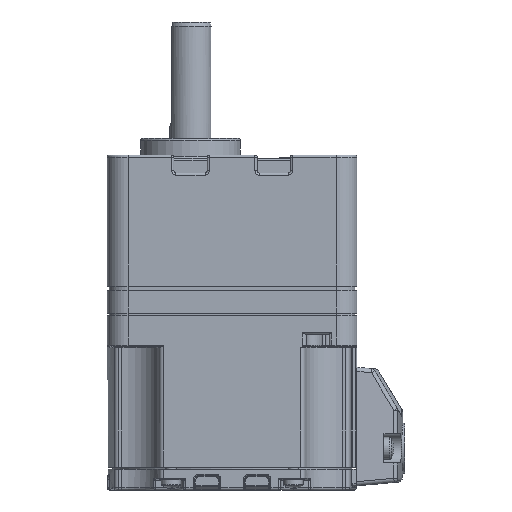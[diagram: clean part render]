
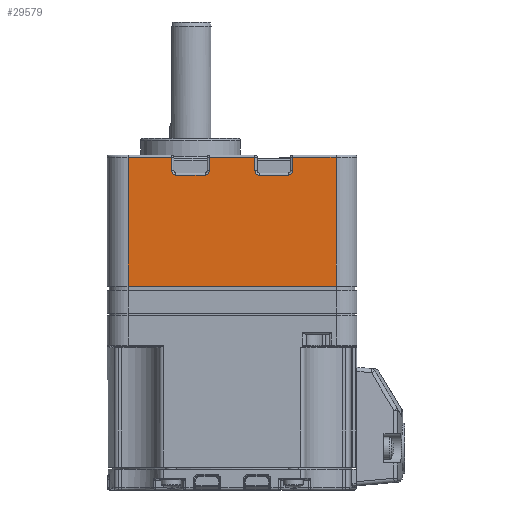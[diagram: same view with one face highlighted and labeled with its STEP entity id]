
A CAD part, left-side view. The second image highlights one B-rep face of the part: STEP entity #29579.
In plain terms, the highlighted planar face has unit normal (-1, 0, 0).
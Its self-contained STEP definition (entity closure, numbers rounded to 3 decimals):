
#25733=CARTESIAN_POINT('',(-60.,55.0,16.928));
#25734=VERTEX_POINT('',#25733);
#25784=CARTESIAN_POINT('',(-60.,5.,16.928));
#25785=VERTEX_POINT('',#25784);
#25793=CARTESIAN_POINT('',(-60.,55.0,16.928));
#25794=DIRECTION('',(0.0,-1.0,0.0));
#25795=VECTOR('',#25794,50.);
#25796=LINE('',#25793,#25795);
#25797=EDGE_CURVE('',#25734,#25785,#25796,.T.);
#25849=CARTESIAN_POINT('',(-60.,5.,47.928));
#25850=VERTEX_POINT('',#25849);
#25860=CARTESIAN_POINT('',(-60.,5.,47.928));
#25861=DIRECTION('',(0.0,0.0,-1.0));
#25862=VECTOR('',#25861,31.0);
#25863=LINE('',#25860,#25862);
#25864=EDGE_CURVE('',#25850,#25785,#25863,.T.);
#25883=CARTESIAN_POINT('',(-60.,55.0,47.928));
#25884=VERTEX_POINT('',#25883);
#25899=CARTESIAN_POINT('',(-60.,55.0,16.928));
#25900=DIRECTION('',(0.0,0.0,1.0));
#25901=VECTOR('',#25900,31.0);
#25902=LINE('',#25899,#25901);
#25903=EDGE_CURVE('',#25734,#25884,#25902,.T.);
#27203=CARTESIAN_POINT('',(-60.,44.5,47.928));
#27204=VERTEX_POINT('',#27203);
#27214=CARTESIAN_POINT('',(-60.,44.5,44.628));
#27215=VERTEX_POINT('',#27214);
#27216=CARTESIAN_POINT('',(-60.,44.5,47.928));
#27217=DIRECTION('',(0.0,0.0,-1.0));
#27218=VECTOR('',#27217,3.3);
#27219=LINE('',#27216,#27218);
#27220=EDGE_CURVE('',#27204,#27215,#27219,.T.);
#27244=CARTESIAN_POINT('',(-60.,43.5,43.628));
#27245=VERTEX_POINT('',#27244);
#27246=CARTESIAN_POINT('',(-60.,43.5,44.628));
#27247=DIRECTION('',(-1.0,0.,0.));
#27248=DIRECTION('',(0.,0.707,-0.707));
#27249=AXIS2_PLACEMENT_3D('',#27246,#27247,#27248);
#27250=CIRCLE('',#27249,1.0);
#27251=EDGE_CURVE('',#27215,#27245,#27250,.T.);
#27270=CARTESIAN_POINT('',(-60.,36.5,43.628));
#27271=VERTEX_POINT('',#27270);
#27272=CARTESIAN_POINT('',(-60.,43.5,43.628));
#27273=DIRECTION('',(0.0,-1.0,0.0));
#27274=VECTOR('',#27273,7.);
#27275=LINE('',#27272,#27274);
#27276=EDGE_CURVE('',#27245,#27271,#27275,.T.);
#27295=CARTESIAN_POINT('',(-60.,35.5,44.628));
#27296=VERTEX_POINT('',#27295);
#27297=CARTESIAN_POINT('',(-60.,36.5,44.628));
#27298=DIRECTION('',(-1.,0.,0.));
#27299=DIRECTION('',(0.,-0.707,-0.707));
#27300=AXIS2_PLACEMENT_3D('',#27297,#27298,#27299);
#27301=CIRCLE('',#27300,1.);
#27302=EDGE_CURVE('',#27271,#27296,#27301,.T.);
#27320=CARTESIAN_POINT('',(-60.,35.5,47.928));
#27321=VERTEX_POINT('',#27320);
#27331=CARTESIAN_POINT('',(-60.,35.5,44.628));
#27332=DIRECTION('',(0.0,0.0,1.0));
#27333=VECTOR('',#27332,3.3);
#27334=LINE('',#27331,#27333);
#27335=EDGE_CURVE('',#27296,#27321,#27334,.T.);
#28618=CARTESIAN_POINT('',(-60.,24.5,47.928));
#28619=VERTEX_POINT('',#28618);
#28629=CARTESIAN_POINT('',(-60.,24.5,44.628));
#28630=VERTEX_POINT('',#28629);
#28631=CARTESIAN_POINT('',(-60.,24.5,47.928));
#28632=DIRECTION('',(0.0,0.0,-1.0));
#28633=VECTOR('',#28632,3.3);
#28634=LINE('',#28631,#28633);
#28635=EDGE_CURVE('',#28619,#28630,#28634,.T.);
#28659=CARTESIAN_POINT('',(-60.,23.5,43.628));
#28660=VERTEX_POINT('',#28659);
#28661=CARTESIAN_POINT('',(-60.,23.5,44.628));
#28662=DIRECTION('',(-1.,0.,0.));
#28663=DIRECTION('',(0.,0.707,-0.707));
#28664=AXIS2_PLACEMENT_3D('',#28661,#28662,#28663);
#28665=CIRCLE('',#28664,1.);
#28666=EDGE_CURVE('',#28630,#28660,#28665,.T.);
#28685=CARTESIAN_POINT('',(-60.,16.5,43.628));
#28686=VERTEX_POINT('',#28685);
#28687=CARTESIAN_POINT('',(-60.,23.5,43.628));
#28688=DIRECTION('',(0.0,-1.0,0.0));
#28689=VECTOR('',#28688,7.);
#28690=LINE('',#28687,#28689);
#28691=EDGE_CURVE('',#28660,#28686,#28690,.T.);
#28710=CARTESIAN_POINT('',(-60.,15.5,44.628));
#28711=VERTEX_POINT('',#28710);
#28712=CARTESIAN_POINT('',(-60.,16.5,44.628));
#28713=DIRECTION('',(-1.0,0.,0.));
#28714=DIRECTION('',(0.,-0.707,-0.707));
#28715=AXIS2_PLACEMENT_3D('',#28712,#28713,#28714);
#28716=CIRCLE('',#28715,1.0);
#28717=EDGE_CURVE('',#28686,#28711,#28716,.T.);
#29109=CARTESIAN_POINT('',(-60.,55.0,47.928));
#29110=DIRECTION('',(0.0,-1.0,0.0));
#29111=VECTOR('',#29110,10.5);
#29112=LINE('',#29109,#29111);
#29113=EDGE_CURVE('',#25884,#27204,#29112,.T.);
#29419=CARTESIAN_POINT('',(-60.,35.5,47.928));
#29420=DIRECTION('',(0.0,-1.0,0.0));
#29421=VECTOR('',#29420,11.0);
#29422=LINE('',#29419,#29421);
#29423=EDGE_CURVE('',#27321,#28619,#29422,.T.);
#29531=CARTESIAN_POINT('',(-60.,15.5,47.928));
#29532=VERTEX_POINT('',#29531);
#29542=CARTESIAN_POINT('',(-60.,15.5,44.628));
#29543=DIRECTION('',(0.0,0.0,1.0));
#29544=VECTOR('',#29543,3.3);
#29545=LINE('',#29542,#29544);
#29546=EDGE_CURVE('',#28711,#29532,#29545,.T.);
#29551=CARTESIAN_POINT('',(-60.,60.0,48.428));
#29552=DIRECTION('',(-1.0,0.0,0.0));
#29553=DIRECTION('',(0.0,0.0,-1.0));
#29554=AXIS2_PLACEMENT_3D('',#29551,#29552,#29553);
#29555=PLANE('',#29554);
#29556=CARTESIAN_POINT('',(-60.,15.5,47.928));
#29557=DIRECTION('',(0.0,-1.0,0.0));
#29558=VECTOR('',#29557,10.5);
#29559=LINE('',#29556,#29558);
#29560=EDGE_CURVE('',#29532,#25850,#29559,.T.);
#29561=ORIENTED_EDGE('',*,*,#29560,.F.);
#29562=ORIENTED_EDGE('',*,*,#29546,.F.);
#29563=ORIENTED_EDGE('',*,*,#28717,.F.);
#29564=ORIENTED_EDGE('',*,*,#28691,.F.);
#29565=ORIENTED_EDGE('',*,*,#28666,.F.);
#29566=ORIENTED_EDGE('',*,*,#28635,.F.);
#29567=ORIENTED_EDGE('',*,*,#29423,.F.);
#29568=ORIENTED_EDGE('',*,*,#27335,.F.);
#29569=ORIENTED_EDGE('',*,*,#27302,.F.);
#29570=ORIENTED_EDGE('',*,*,#27276,.F.);
#29571=ORIENTED_EDGE('',*,*,#27251,.F.);
#29572=ORIENTED_EDGE('',*,*,#27220,.F.);
#29573=ORIENTED_EDGE('',*,*,#29113,.F.);
#29574=ORIENTED_EDGE('',*,*,#25903,.F.);
#29575=ORIENTED_EDGE('',*,*,#25797,.T.);
#29576=ORIENTED_EDGE('',*,*,#25864,.F.);
#29577=EDGE_LOOP('',(#29561,#29562,#29563,#29564,#29565,#29566,#29567,#29568,#29569,#29570,#29571,#29572,#29573,#29574,#29575,#29576));
#29578=FACE_OUTER_BOUND('',#29577,.T.);
#29579=ADVANCED_FACE('',(#29578),#29555,.T.);
